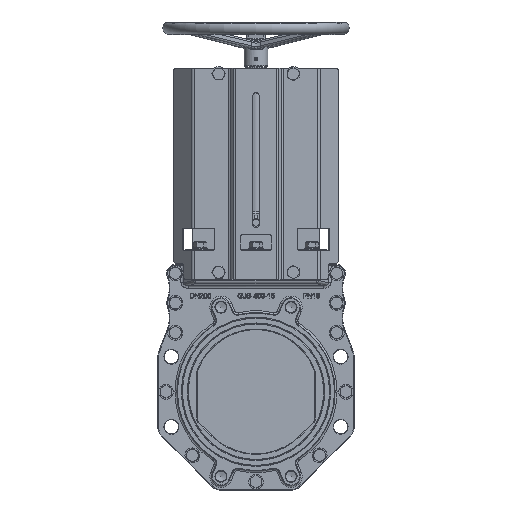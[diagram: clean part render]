
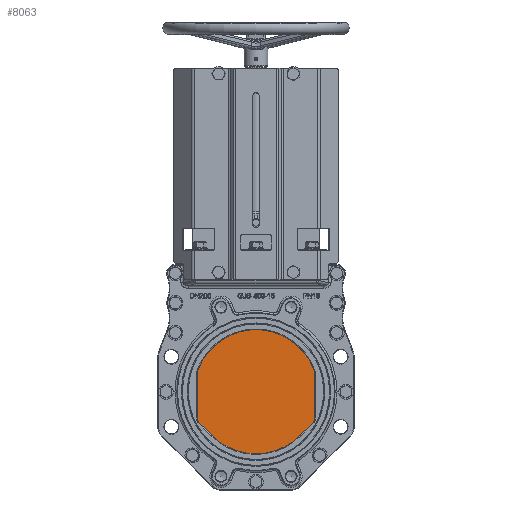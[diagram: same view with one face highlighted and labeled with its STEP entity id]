
A CAD part, top view. The second image highlights one B-rep face of the part: STEP entity #8063.
In plain terms, the highlighted planar face has unit normal (0, 0, 1).
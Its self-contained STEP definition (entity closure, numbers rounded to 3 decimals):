
#5809=CIRCLE('',#47280,10.);
#5811=CIRCLE('',#47284,10.);
#5813=CIRCLE('',#47287,100.);
#5815=CIRCLE('',#47290,10.);
#5817=CIRCLE('',#47294,10.);
#5819=CIRCLE('',#47298,100.);
#8063=ADVANCED_FACE('',(#12036),#10389,.T.);
#10389=PLANE('',#47991);
#12036=FACE_OUTER_BOUND('',#14622,.T.);
#14622=EDGE_LOOP('',(#21296,#21297,#21298,#21299,#21300,#21301,#21302,#21303,
#21304,#21305));
#21296=ORIENTED_EDGE('',*,*,#35261,.F.);
#21297=ORIENTED_EDGE('',*,*,#35287,.F.);
#21298=ORIENTED_EDGE('',*,*,#35284,.F.);
#21299=ORIENTED_EDGE('',*,*,#35281,.F.);
#21300=ORIENTED_EDGE('',*,*,#35278,.F.);
#21301=ORIENTED_EDGE('',*,*,#35275,.F.);
#21302=ORIENTED_EDGE('',*,*,#35272,.F.);
#21303=ORIENTED_EDGE('',*,*,#35269,.F.);
#21304=ORIENTED_EDGE('',*,*,#35266,.F.);
#21305=ORIENTED_EDGE('',*,*,#35263,.F.);
#30911=VERTEX_POINT('',#64493);
#30912=VERTEX_POINT('',#64495);
#30913=VERTEX_POINT('',#64499);
#30915=VERTEX_POINT('',#64505);
#30917=VERTEX_POINT('',#64511);
#30919=VERTEX_POINT('',#64517);
#30921=VERTEX_POINT('',#64523);
#30923=VERTEX_POINT('',#64529);
#30925=VERTEX_POINT('',#64535);
#30927=VERTEX_POINT('',#64541);
#35261=EDGE_CURVE('',#30911,#30912,#41320,.T.);
#35263=EDGE_CURVE('',#30912,#30913,#5809,.T.);
#35266=EDGE_CURVE('',#30913,#30915,#41323,.T.);
#35269=EDGE_CURVE('',#30915,#30917,#5811,.T.);
#35272=EDGE_CURVE('',#30917,#30919,#5813,.T.);
#35275=EDGE_CURVE('',#30919,#30921,#5815,.T.);
#35278=EDGE_CURVE('',#30921,#30923,#41329,.T.);
#35281=EDGE_CURVE('',#30923,#30925,#5817,.T.);
#35284=EDGE_CURVE('',#30925,#30927,#41333,.T.);
#35287=EDGE_CURVE('',#30927,#30911,#5819,.T.);
#41320=LINE('',#64494,#44141);
#41323=LINE('',#64504,#44144);
#41329=LINE('',#64528,#44150);
#41333=LINE('',#64540,#44154);
#44141=VECTOR('',#51988,1.);
#44144=VECTOR('',#51999,1.);
#44150=VECTOR('',#52025,1.);
#44154=VECTOR('',#52037,1.);
#47280=AXIS2_PLACEMENT_3D('',#64498,#51992,#51993);
#47284=AXIS2_PLACEMENT_3D('',#64510,#52004,#52005);
#47287=AXIS2_PLACEMENT_3D('',#64516,#52011,#52012);
#47290=AXIS2_PLACEMENT_3D('',#64522,#52018,#52019);
#47294=AXIS2_PLACEMENT_3D('',#64534,#52030,#52031);
#47298=AXIS2_PLACEMENT_3D('',#64545,#52042,#52043);
#47991=AXIS2_PLACEMENT_3D('',#70464,#54176,#54177);
#51988=DIRECTION('',(-0.707,0.707,0.));
#51992=DIRECTION('',(0.,0.,-1.));
#51993=DIRECTION('',(1.,0.,0.));
#51999=DIRECTION('',(0.,1.,0.));
#52004=DIRECTION('',(0.,0.,-1.));
#52005=DIRECTION('',(1.,0.,0.));
#52011=DIRECTION('',(0.,0.,-1.));
#52012=DIRECTION('',(1.,0.,0.));
#52018=DIRECTION('',(0.,0.,-1.));
#52019=DIRECTION('',(1.,0.,0.));
#52025=DIRECTION('',(0.,-1.,0.));
#52030=DIRECTION('',(0.,0.,-1.));
#52031=DIRECTION('',(1.,0.,0.));
#52037=DIRECTION('',(-0.707,-0.707,0.));
#52042=DIRECTION('',(0.,0.,-1.));
#52043=DIRECTION('',(1.,0.,0.));
#54176=DIRECTION('',(0.,0.,1.));
#54177=DIRECTION('',(1.,0.,0.));
#64493=CARTESIAN_POINT('',(-71.976,-69.434,4.));
#64494=CARTESIAN_POINT('',(-95.,-46.41,4.));
#64495=CARTESIAN_POINT('',(-92.071,-49.339,4.));
#64498=CARTESIAN_POINT('',(-85.,-42.268,4.));
#64499=CARTESIAN_POINT('',(-95.,-42.268,4.));
#64504=CARTESIAN_POINT('',(-95.,31.225,4.));
#64505=CARTESIAN_POINT('',(-95.,29.58,4.));
#64510=CARTESIAN_POINT('',(-85.,29.58,4.));
#64511=CARTESIAN_POINT('',(-94.444,32.867,4.));
#64516=CARTESIAN_POINT('',(0.,0.,4.));
#64517=CARTESIAN_POINT('',(94.444,32.867,4.));
#64522=CARTESIAN_POINT('',(85.,29.58,4.));
#64523=CARTESIAN_POINT('',(95.,29.58,4.));
#64528=CARTESIAN_POINT('',(95.,-46.41,4.));
#64529=CARTESIAN_POINT('',(95.,-42.268,4.));
#64534=CARTESIAN_POINT('',(85.,-42.268,4.));
#64535=CARTESIAN_POINT('',(92.071,-49.339,4.));
#64540=CARTESIAN_POINT('',(70.699,-70.711,4.));
#64541=CARTESIAN_POINT('',(70.699,-70.711,4.));
#64545=CARTESIAN_POINT('',(-0.011,0.,4.));
#70464=CARTESIAN_POINT('',(0.,109.489,4.));
